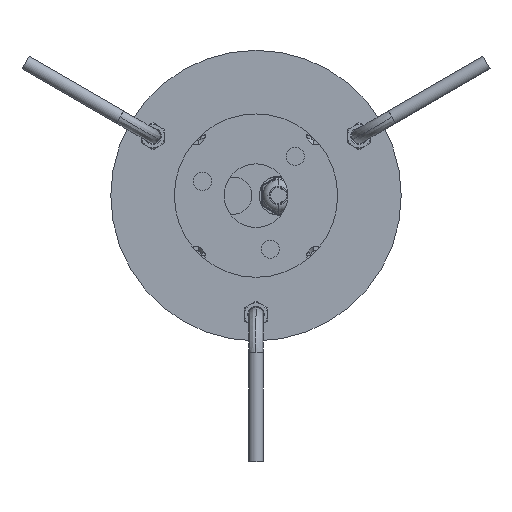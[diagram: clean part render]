
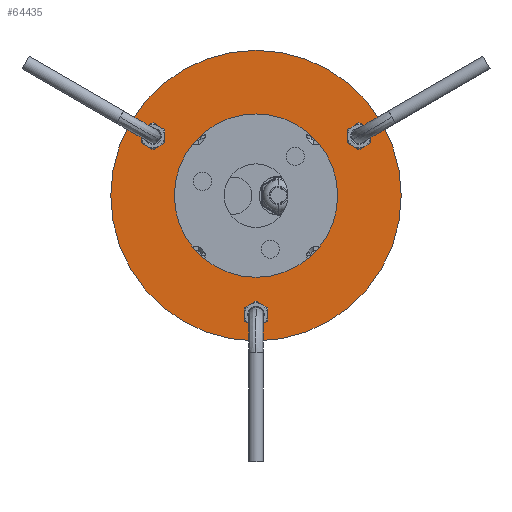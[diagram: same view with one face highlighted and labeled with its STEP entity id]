
A CAD part, front view. The second image highlights one B-rep face of the part: STEP entity #64435.
In plain terms, the highlighted planar face has unit normal (0, -1, 0) as drawn and (0, 0, 1) by its records, which use the part's own axes.
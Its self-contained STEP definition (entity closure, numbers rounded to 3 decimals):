
#64206=CARTESIAN_POINT('',(0.,0.,1.5));
#64207=DIRECTION('',(0.,0.,1.));
#64208=DIRECTION('',(1.,0.,0.));
#64209=AXIS2_PLACEMENT_3D('',#64206,#64207,#64208);
#64211=CARTESIAN_POINT('',(0.,0.,1.5));
#64212=DIRECTION('',(0.,0.,1.));
#64213=DIRECTION('',(-1.,0.,0.));
#64214=AXIS2_PLACEMENT_3D('',#64211,#64212,#64213);
#64216=CARTESIAN_POINT('',(0.,0.,1.5));
#64217=DIRECTION('',(0.,0.,-1.));
#64218=DIRECTION('',(1.,0.,0.));
#64219=AXIS2_PLACEMENT_3D('',#64216,#64217,#64218);
#64221=CARTESIAN_POINT('',(0.,0.,1.5));
#64222=DIRECTION('',(0.,0.,-1.));
#64223=DIRECTION('',(-1.,0.,0.));
#64224=AXIS2_PLACEMENT_3D('',#64221,#64222,#64223);
#64226=CARTESIAN_POINT('',(0.,-65.5,1.5));
#64227=DIRECTION('',(0.,0.,-1.));
#64228=DIRECTION('',(1.,0.,0.));
#64229=AXIS2_PLACEMENT_3D('',#64226,#64227,#64228);
#64231=CARTESIAN_POINT('',(0.,-65.5,1.5));
#64232=DIRECTION('',(0.,0.,-1.));
#64233=DIRECTION('',(-1.,0.,0.));
#64234=AXIS2_PLACEMENT_3D('',#64231,#64232,#64233);
#64236=CARTESIAN_POINT('',(-56.725,32.75,1.5));
#64237=DIRECTION('',(0.,0.,-1.));
#64238=DIRECTION('',(1.,0.,0.));
#64239=AXIS2_PLACEMENT_3D('',#64236,#64237,#64238);
#64241=CARTESIAN_POINT('',(-56.725,32.75,1.5));
#64242=DIRECTION('',(0.,0.,-1.));
#64243=DIRECTION('',(-1.,0.,0.));
#64244=AXIS2_PLACEMENT_3D('',#64241,#64242,#64243);
#64246=CARTESIAN_POINT('',(56.725,32.75,1.5));
#64247=DIRECTION('',(0.,0.,-1.));
#64248=DIRECTION('',(1.,0.,0.));
#64249=AXIS2_PLACEMENT_3D('',#64246,#64247,#64248);
#64251=CARTESIAN_POINT('',(56.725,32.75,1.5));
#64252=DIRECTION('',(0.,0.,-1.));
#64253=DIRECTION('',(-1.,0.,0.));
#64254=AXIS2_PLACEMENT_3D('',#64251,#64252,#64253);
#64284=CARTESIAN_POINT('',(-45.,0.,1.5));
#64285=CARTESIAN_POINT('',(45.,0.,1.5));
#64286=VERTEX_POINT('',#64284);
#64287=VERTEX_POINT('',#64285);
#64296=CARTESIAN_POINT('',(-61.225,32.75,1.5));
#64297=CARTESIAN_POINT('',(-52.225,32.75,1.5));
#64298=VERTEX_POINT('',#64296);
#64299=VERTEX_POINT('',#64297);
#64304=CARTESIAN_POINT('',(4.5,-65.5,1.5));
#64305=CARTESIAN_POINT('',(-4.5,-65.5,1.5));
#64306=VERTEX_POINT('',#64304);
#64307=VERTEX_POINT('',#64305);
#64312=CARTESIAN_POINT('',(61.225,32.75,1.5));
#64313=VERTEX_POINT('',#64312);
#64314=CARTESIAN_POINT('',(52.225,32.75,1.5));
#64315=VERTEX_POINT('',#64314);
#64320=CARTESIAN_POINT('',(80.,0.,1.5));
#64321=CARTESIAN_POINT('',(-80.,0.,1.5));
#64322=VERTEX_POINT('',#64320);
#64323=VERTEX_POINT('',#64321);
#64403=CARTESIAN_POINT('',(0.,0.,1.5));
#64404=DIRECTION('',(0.,0.,1.));
#64405=DIRECTION('',(1.,0.,0.));
#64406=AXIS2_PLACEMENT_3D('',#64403,#64404,#64405);
#64407=PLANE('',#64406);
#64408=ORIENTED_EDGE('',*,*,#64383,.F.);
#64409=ORIENTED_EDGE('',*,*,#64396,.F.);
#64410=EDGE_LOOP('',(#64408,#64409));
#64411=FACE_OUTER_BOUND('',#64410,.F.);
#64413=ORIENTED_EDGE('',*,*,#64412,.F.);
#64415=ORIENTED_EDGE('',*,*,#64414,.F.);
#64416=EDGE_LOOP('',(#64413,#64415));
#64417=FACE_BOUND('',#64416,.F.);
#64419=ORIENTED_EDGE('',*,*,#64418,.F.);
#64421=ORIENTED_EDGE('',*,*,#64420,.F.);
#64422=EDGE_LOOP('',(#64419,#64421));
#64423=FACE_BOUND('',#64422,.F.);
#64424=ORIENTED_EDGE('',*,*,#64333,.F.);
#64426=ORIENTED_EDGE('',*,*,#64425,.F.);
#64427=EDGE_LOOP('',(#64424,#64426));
#64428=FACE_BOUND('',#64427,.F.);
#64430=ORIENTED_EDGE('',*,*,#64429,.F.);
#64432=ORIENTED_EDGE('',*,*,#64431,.F.);
#64433=EDGE_LOOP('',(#64430,#64432));
#64434=FACE_BOUND('',#64433,.F.);
#64435=ADVANCED_FACE('',(#64411,#64417,#64423,#64428,#64434),#64407,.T.);
#64210=CIRCLE('',#64209,80.);
#64215=CIRCLE('',#64214,80.);
#64220=CIRCLE('',#64219,45.);
#64225=CIRCLE('',#64224,45.);
#64230=CIRCLE('',#64229,4.5);
#64235=CIRCLE('',#64234,4.5);
#64240=CIRCLE('',#64239,4.5);
#64245=CIRCLE('',#64244,4.5);
#64250=CIRCLE('',#64249,4.5);
#64255=CIRCLE('',#64254,4.5);
#64333=EDGE_CURVE('',#64299,#64298,#64240,.T.);
#64383=EDGE_CURVE('',#64322,#64323,#64210,.T.);
#64396=EDGE_CURVE('',#64323,#64322,#64215,.T.);
#64412=EDGE_CURVE('',#64287,#64286,#64220,.T.);
#64414=EDGE_CURVE('',#64286,#64287,#64225,.T.);
#64418=EDGE_CURVE('',#64306,#64307,#64230,.T.);
#64420=EDGE_CURVE('',#64307,#64306,#64235,.T.);
#64425=EDGE_CURVE('',#64298,#64299,#64245,.T.);
#64429=EDGE_CURVE('',#64313,#64315,#64250,.T.);
#64431=EDGE_CURVE('',#64315,#64313,#64255,.T.);
